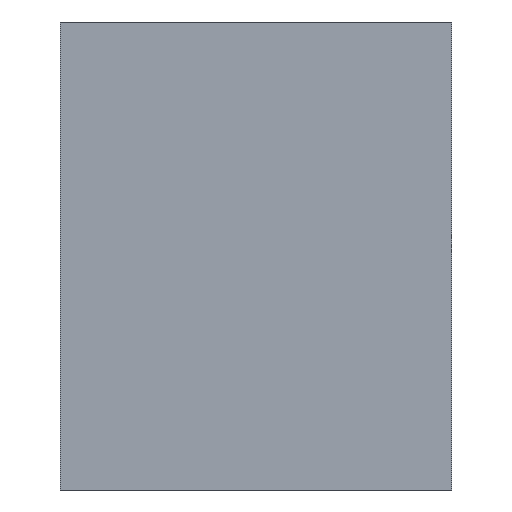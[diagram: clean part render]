
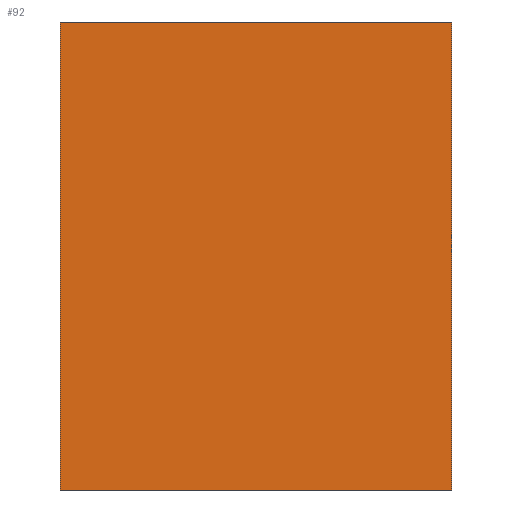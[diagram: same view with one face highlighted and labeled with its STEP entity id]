
A CAD part, top view. The second image highlights one B-rep face of the part: STEP entity #92.
In plain terms, the highlighted planar face has unit normal (0, 0, 1).
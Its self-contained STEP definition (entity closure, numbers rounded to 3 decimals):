
#53=CARTESIAN_POINT('Axis2P3D Location',(0.,0.,0.)) ;
#58=CARTESIAN_POINT('Line Origine',(51.5,0.,0.)) ;
#62=CARTESIAN_POINT('Vertex',(0.,0.,0.)) ;
#64=CARTESIAN_POINT('Vertex',(103.,0.,0.)) ;
#67=CARTESIAN_POINT('Line Origine',(103.,61.5,0.)) ;
#71=CARTESIAN_POINT('Vertex',(103.,123.,0.)) ;
#74=CARTESIAN_POINT('Line Origine',(51.5,123.,0.)) ;
#78=CARTESIAN_POINT('Vertex',(0.,123.,0.)) ;
#81=CARTESIAN_POINT('Line Origine',(0.,61.5,0.)) ;
#54=DIRECTION('Axis2P3D Direction',(0.,0.,1.)) ;
#55=DIRECTION('Axis2P3D XDirection',(1.,0.,0.)) ;
#59=DIRECTION('Vector Direction',(1.,0.,0.)) ;
#68=DIRECTION('Vector Direction',(0.,1.,0.)) ;
#75=DIRECTION('Vector Direction',(-1.,0.,0.)) ;
#82=DIRECTION('Vector Direction',(0.,-1.,0.)) ;
#56=AXIS2_PLACEMENT_3D('Plane Axis2P3D',#53,#54,#55) ;
#87=ORIENTED_EDGE('',*,*,#66,.T.) ;
#88=ORIENTED_EDGE('',*,*,#73,.T.) ;
#89=ORIENTED_EDGE('',*,*,#80,.T.) ;
#90=ORIENTED_EDGE('',*,*,#85,.T.) ;
#60=VECTOR('Line Direction',#59,1.) ;
#69=VECTOR('Line Direction',#68,1.) ;
#76=VECTOR('Line Direction',#75,1.) ;
#83=VECTOR('Line Direction',#82,1.) ;
#92=ADVANCED_FACE('Fill.1',(#91),#57,.T.) ;
#66=EDGE_CURVE('',#63,#65,#61,.T.) ;
#73=EDGE_CURVE('',#65,#72,#70,.T.) ;
#80=EDGE_CURVE('',#72,#79,#77,.T.) ;
#85=EDGE_CURVE('',#79,#63,#84,.T.) ;
#86=EDGE_LOOP('',(#87,#88,#89,#90)) ;
#91=FACE_OUTER_BOUND('',#86,.T.) ;
#61=LINE('Line',#58,#60) ;
#70=LINE('Line',#67,#69) ;
#77=LINE('Line',#74,#76) ;
#84=LINE('Line',#81,#83) ;
#57=PLANE('',#56) ;
#63=VERTEX_POINT('',#62) ;
#65=VERTEX_POINT('',#64) ;
#72=VERTEX_POINT('',#71) ;
#79=VERTEX_POINT('',#78) ;
